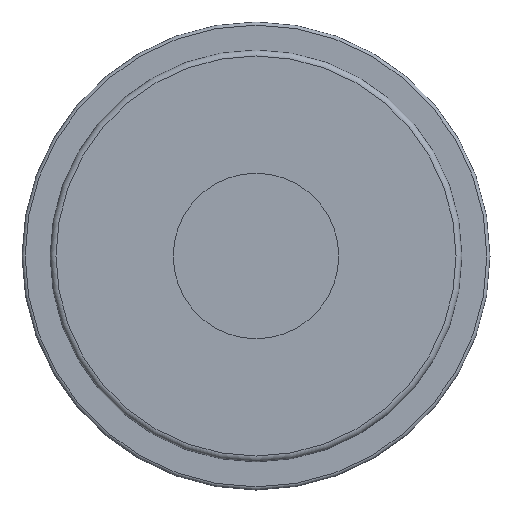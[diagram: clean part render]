
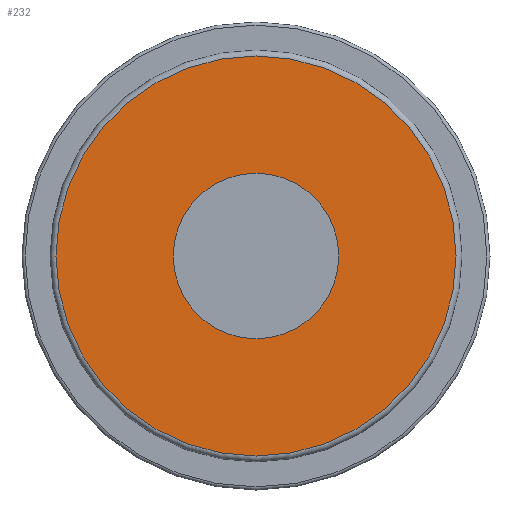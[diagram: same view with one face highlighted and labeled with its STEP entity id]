
A CAD part, left-side view. The second image highlights one B-rep face of the part: STEP entity #232.
In plain terms, the highlighted planar face has unit normal (-1, 0, 0).
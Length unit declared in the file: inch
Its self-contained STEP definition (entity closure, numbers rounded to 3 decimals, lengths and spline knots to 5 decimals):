
#46=FACE_BOUND('',#75,.T.);
#52=PLANE('',#281);
#62=FACE_OUTER_BOUND('',#74,.T.);
#74=EDGE_LOOP('',(#193,#194));
#75=EDGE_LOOP('',(#195));
#89=CIRCLE('',#258,0.42);
#103=CIRCLE('',#277,1.015);
#104=CIRCLE('',#278,1.015);
#111=VERTEX_POINT('',#404);
#124=VERTEX_POINT('',#437);
#125=VERTEX_POINT('',#439);
#132=EDGE_CURVE('',#111,#111,#89,.T.);
#147=EDGE_CURVE('',#124,#125,#103,.T.);
#148=EDGE_CURVE('',#125,#124,#104,.T.);
#193=ORIENTED_EDGE('',*,*,#148,.F.);
#194=ORIENTED_EDGE('',*,*,#147,.F.);
#195=ORIENTED_EDGE('',*,*,#132,.T.);
#232=ADVANCED_FACE('',(#62,#46),#52,.T.);
#258=AXIS2_PLACEMENT_3D('',#406,#309,#310);
#277=AXIS2_PLACEMENT_3D('',#440,#348,#349);
#278=AXIS2_PLACEMENT_3D('',#441,#350,#351);
#281=AXIS2_PLACEMENT_3D('',#445,#357,#358);
#309=DIRECTION('center_axis',(1.,0.,0.));
#310=DIRECTION('ref_axis',(0.,0.,-1.));
#348=DIRECTION('center_axis',(1.,0.,0.));
#349=DIRECTION('ref_axis',(0.,-1.,0.));
#350=DIRECTION('center_axis',(1.,0.,0.));
#351=DIRECTION('ref_axis',(0.,-1.,0.));
#357=DIRECTION('center_axis',(-1.,0.,0.));
#358=DIRECTION('ref_axis',(0.,0.,1.));
#404=CARTESIAN_POINT('',(0.,0.,0.42));
#406=CARTESIAN_POINT('Origin',(0.,0.,0.));
#437=CARTESIAN_POINT('',(0.,0.,1.015));
#439=CARTESIAN_POINT('',(0.,1.015,0.));
#440=CARTESIAN_POINT('Origin',(0.,0.,0.));
#441=CARTESIAN_POINT('Origin',(0.,0.,0.));
#445=CARTESIAN_POINT('Origin',(0.,1.045,0.));
